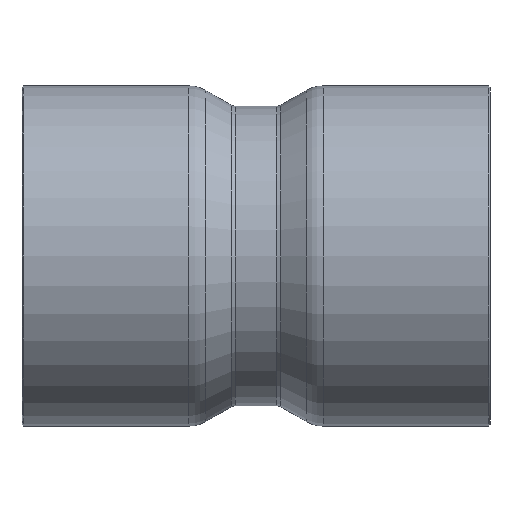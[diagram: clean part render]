
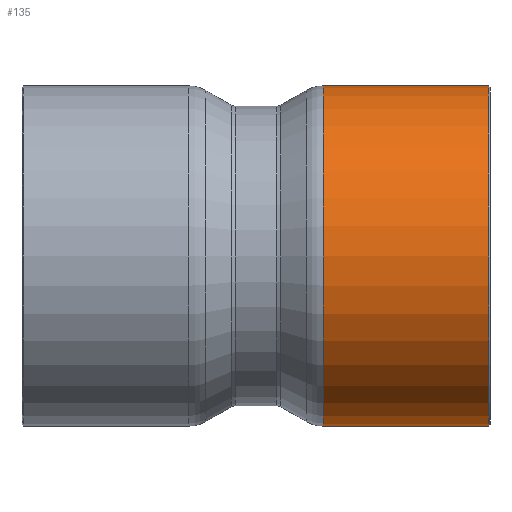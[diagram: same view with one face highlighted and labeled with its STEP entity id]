
A CAD part, front view. The second image highlights one B-rep face of the part: STEP entity #135.
In plain terms, the highlighted cylindrical face has radius 23.45 mm (diameter 46.9 mm), a full revolution.
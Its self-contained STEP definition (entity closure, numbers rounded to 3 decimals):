
#73=CARTESIAN_POINT('',(32.05,23.45,0.));
#74=VERTEX_POINT('',#73);
#75=CARTESIAN_POINT('',(32.05,0.0,0.0));
#76=DIRECTION('',(1.0,0.0,0.0));
#77=DIRECTION('',(0.0,-1.0,0.0));
#78=AXIS2_PLACEMENT_3D('',#75,#76,#77);
#79=CIRCLE('',#78,23.45);
#80=EDGE_CURVE('',#74,#74,#79,.T.);
#116=CARTESIAN_POINT('',(20.769,0.0,0.0));
#117=DIRECTION('',(1.0,0.0,0.0));
#118=DIRECTION('',(0.0,1.0,0.0));
#119=AXIS2_PLACEMENT_3D('',#116,#117,#118);
#120=CYLINDRICAL_SURFACE('',#119,23.45);
#121=CARTESIAN_POINT('',(9.289,23.45,0.0));
#122=VERTEX_POINT('',#121);
#123=CARTESIAN_POINT('',(9.289,0.0,0.0));
#124=DIRECTION('',(1.0,0.0,0.0));
#125=DIRECTION('',(0.0,1.0,0.0));
#126=AXIS2_PLACEMENT_3D('',#123,#124,#125);
#127=CIRCLE('',#126,23.45);
#128=EDGE_CURVE('',#122,#122,#127,.T.);
#129=ORIENTED_EDGE('',*,*,#128,.T.);
#130=EDGE_LOOP('',(#129));
#131=FACE_OUTER_BOUND('',#130,.T.);
#132=ORIENTED_EDGE('',*,*,#80,.F.);
#133=EDGE_LOOP('',(#132));
#134=FACE_BOUND('',#133,.T.);
#135=ADVANCED_FACE('',(#131,#134),#120,.T.);
